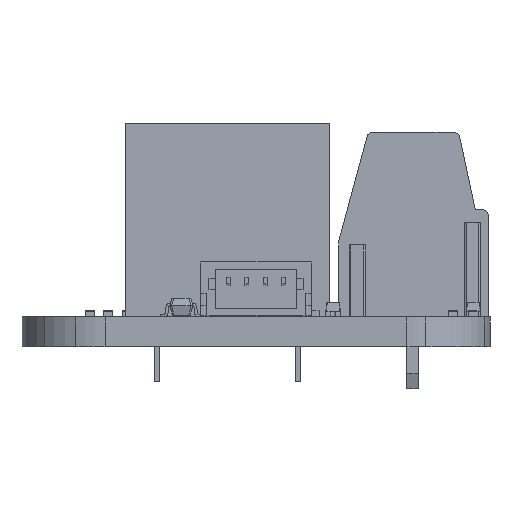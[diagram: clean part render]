
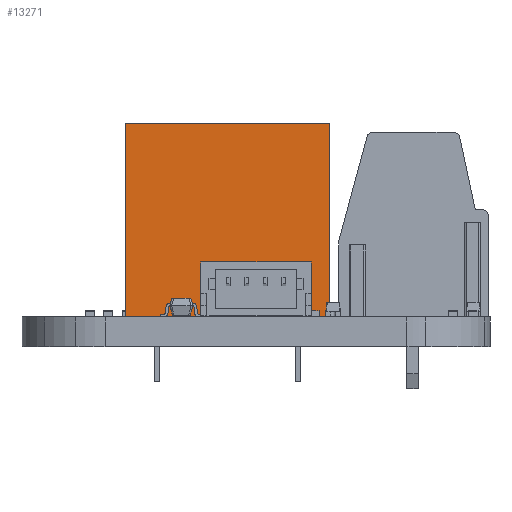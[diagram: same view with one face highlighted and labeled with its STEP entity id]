
A CAD part, left-side view. The second image highlights one B-rep face of the part: STEP entity #13271.
In plain terms, the highlighted planar face has unit normal (-1, 0, 0).
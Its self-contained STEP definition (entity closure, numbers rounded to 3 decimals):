
#13271 = ADVANCED_FACE('',(#13272),#13306,.F.);
#13272 = FACE_BOUND('',#13273,.F.);
#13273 = EDGE_LOOP('',(#13274,#13284,#13292,#13300));
#13274 = ORIENTED_EDGE('',*,*,#13275,.T.);
#13275 = EDGE_CURVE('',#13276,#13278,#13280,.T.);
#13276 = VERTEX_POINT('',#13277);
#13277 = CARTESIAN_POINT('',(-10.1,5.55,0.));
#13278 = VERTEX_POINT('',#13279);
#13279 = CARTESIAN_POINT('',(-10.1,5.55,10.5));
#13280 = LINE('',#13281,#13282);
#13281 = CARTESIAN_POINT('',(-10.1,5.55,0.));
#13282 = VECTOR('',#13283,1.);
#13283 = DIRECTION('',(0.,0.,1.));
#13284 = ORIENTED_EDGE('',*,*,#13285,.T.);
#13285 = EDGE_CURVE('',#13278,#13286,#13288,.T.);
#13286 = VERTEX_POINT('',#13287);
#13287 = CARTESIAN_POINT('',(-10.1,-5.55,10.5));
#13288 = LINE('',#13289,#13290);
#13289 = CARTESIAN_POINT('',(-10.1,5.55,10.5));
#13290 = VECTOR('',#13291,1.);
#13291 = DIRECTION('',(0.,-1.,0.));
#13292 = ORIENTED_EDGE('',*,*,#13293,.F.);
#13293 = EDGE_CURVE('',#13294,#13286,#13296,.T.);
#13294 = VERTEX_POINT('',#13295);
#13295 = CARTESIAN_POINT('',(-10.1,-5.55,0.));
#13296 = LINE('',#13297,#13298);
#13297 = CARTESIAN_POINT('',(-10.1,-5.55,0.));
#13298 = VECTOR('',#13299,1.);
#13299 = DIRECTION('',(0.,0.,1.));
#13300 = ORIENTED_EDGE('',*,*,#13301,.F.);
#13301 = EDGE_CURVE('',#13276,#13294,#13302,.T.);
#13302 = LINE('',#13303,#13304);
#13303 = CARTESIAN_POINT('',(-10.1,5.55,0.));
#13304 = VECTOR('',#13305,1.);
#13305 = DIRECTION('',(0.,-1.,0.));
#13306 = PLANE('',#13307);
#13307 = AXIS2_PLACEMENT_3D('',#13308,#13309,#13310);
#13308 = CARTESIAN_POINT('',(-10.1,5.55,0.));
#13309 = DIRECTION('',(1.,0.,-0.));
#13310 = DIRECTION('',(0.,-1.,0.));
